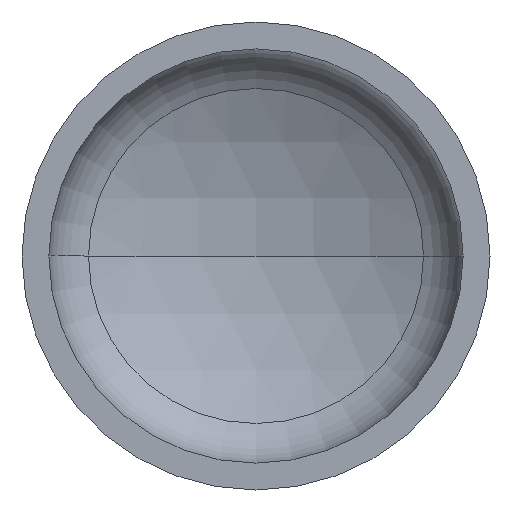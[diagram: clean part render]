
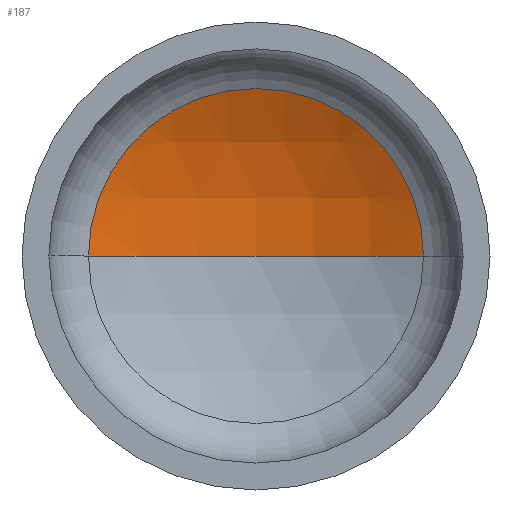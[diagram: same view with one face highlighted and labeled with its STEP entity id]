
A CAD part, front view. The second image highlights one B-rep face of the part: STEP entity #187.
In plain terms, the highlighted spherical face has radius 1280 mm.
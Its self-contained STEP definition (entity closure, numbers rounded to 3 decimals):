
#2 = AXIS2_PLACEMENT_3D ( 'NONE', #244, #240, #348 ) ;
#6 = EDGE_LOOP ( 'NONE', ( #73, #142, #118 ) ) ;
#16 = AXIS2_PLACEMENT_3D ( 'NONE', #273, #36, #222 ) ;
#26 = AXIS2_PLACEMENT_3D ( 'NONE', #399, #403, #392 ) ;
#35 = VERTEX_POINT ( 'NONE', #235 ) ;
#36 = DIRECTION ( 'NONE',  ( 0., 0., -1. ) ) ;
#42 = VERTEX_POINT ( 'NONE', #212 ) ;
#73 = ORIENTED_EDGE ( 'NONE', *, *, #354, .F. ) ;
#86 = EDGE_CURVE ( 'NONE', #35, #104, #160, .T. ) ;
#104 = VERTEX_POINT ( 'NONE', #397 ) ;
#118 = ORIENTED_EDGE ( 'NONE', *, *, #86, .T. ) ;
#139 = FACE_OUTER_BOUND ( 'NONE', #6, .T. ) ;
#142 = ORIENTED_EDGE ( 'NONE', *, *, #352, .T. ) ;
#158 = DIRECTION ( 'NONE',  ( 1., 0., 0. ) ) ;
#160 = CIRCLE ( 'NONE', #26, 572.599 ) ;
#187 = ADVANCED_FACE ( 'NONE', ( #139 ), #346, .F. ) ;
#212 = CARTESIAN_POINT ( 'NONE',  ( 0., 454.335, 0. ) ) ;
#222 = DIRECTION ( 'NONE',  ( -1., 0., 0. ) ) ;
#224 = DIRECTION ( 'NONE',  ( 0., 0., 1. ) ) ;
#225 = CARTESIAN_POINT ( 'NONE',  ( 0., -825.665, 0. ) ) ;
#235 = CARTESIAN_POINT ( 'NONE',  ( 572.599, 319.119, 0. ) ) ;
#240 = DIRECTION ( 'NONE',  ( 0., 0., -1. ) ) ;
#244 = CARTESIAN_POINT ( 'NONE',  ( 0., -825.665, 0. ) ) ;
#257 = CIRCLE ( 'NONE', #2, 1280. ) ;
#273 = CARTESIAN_POINT ( 'NONE',  ( 0., -825.665, 0. ) ) ;
#346 = SPHERICAL_SURFACE ( 'NONE', #16, 1280. ) ;
#348 = DIRECTION ( 'NONE',  ( -1., 0., 0. ) ) ;
#352 = EDGE_CURVE ( 'NONE', #42, #35, #257, .T. ) ;
#354 = EDGE_CURVE ( 'NONE', #42, #104, #376, .T. ) ;
#369 = AXIS2_PLACEMENT_3D ( 'NONE', #225, #224, #158 ) ;
#376 = CIRCLE ( 'NONE', #369, 1280. ) ;
#392 = DIRECTION ( 'NONE',  ( 1., 0., 0. ) ) ;
#397 = CARTESIAN_POINT ( 'NONE',  ( -572.599, 319.119, 0. ) ) ;
#399 = CARTESIAN_POINT ( 'NONE',  ( 0., 319.119, 0. ) ) ;
#403 = DIRECTION ( 'NONE',  ( 0., -1., 0. ) ) ;
